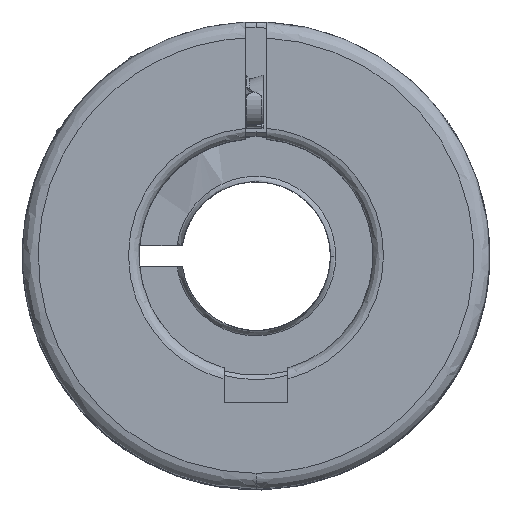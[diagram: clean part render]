
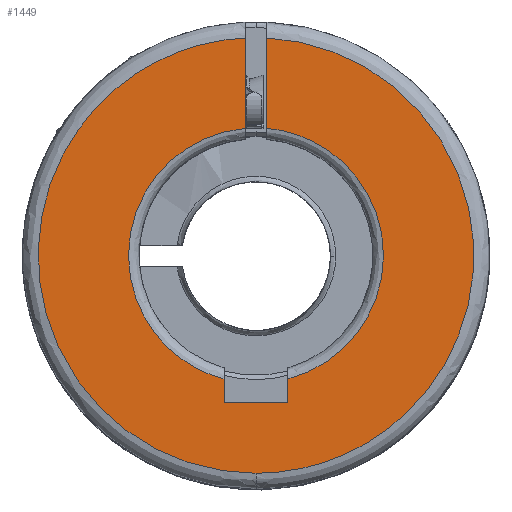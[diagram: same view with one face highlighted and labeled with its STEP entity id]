
A CAD part, top view. The second image highlights one B-rep face of the part: STEP entity #1449.
In plain terms, the highlighted planar face has unit normal (0, 0, 1).
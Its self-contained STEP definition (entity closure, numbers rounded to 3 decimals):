
#871 = VERTEX_POINT ( 'NONE', #10145 ) ;
#875 = VERTEX_POINT ( 'NONE', #10199 ) ;
#927 = EDGE_CURVE ( 'NONE', #928, #940, #10312, .T. ) ;
#928 = VERTEX_POINT ( 'NONE', #10286 ) ;
#935 = EDGE_CURVE ( 'NONE', #875, #871, #10326, .T. ) ;
#940 = VERTEX_POINT ( 'NONE', #10320 ) ;
#942 = EDGE_CURVE ( 'NONE', #940, #875, #10337, .T. ) ;
#1057 = EDGE_CURVE ( 'NONE', #871, #1058, #10668, .T. ) ;
#1058 = VERTEX_POINT ( 'NONE', #10664 ) ;
#1372 = ORIENTED_EDGE ( 'NONE', *, *, #1373, .F. ) ;
#1373 = EDGE_CURVE ( 'NONE', #1058, #1427, #11268, .T. ) ;
#1414 = ORIENTED_EDGE ( 'NONE', *, *, #1415, .F. ) ;
#1415 = EDGE_CURVE ( 'NONE', #1427, #2180, #11359, .T. ) ;
#1427 = VERTEX_POINT ( 'NONE', #11400 ) ;
#1428 = ORIENTED_EDGE ( 'NONE', *, *, #1057, .F. ) ;
#1429 = ORIENTED_EDGE ( 'NONE', *, *, #935, .F. ) ;
#1430 = ORIENTED_EDGE ( 'NONE', *, *, #942, .F. ) ;
#1431 = ORIENTED_EDGE ( 'NONE', *, *, #927, .F. ) ;
#1432 = ORIENTED_EDGE ( 'NONE', *, *, #1433, .F. ) ;
#1433 = EDGE_CURVE ( 'NONE', #1434, #928, #11423, .T. ) ;
#1434 = VERTEX_POINT ( 'NONE', #11458 ) ;
#1435 = ORIENTED_EDGE ( 'NONE', *, *, #1436, .F. ) ;
#1436 = EDGE_CURVE ( 'NONE', #1437, #1434, #11453, .T. ) ;
#1437 = VERTEX_POINT ( 'NONE', #11449 ) ;
#1438 = ORIENTED_EDGE ( 'NONE', *, *, #1439, .F. ) ;
#1439 = EDGE_CURVE ( 'NONE', #2180, #1437, #11448, .T. ) ;
#1449 = ADVANCED_FACE ( 'NONE', ( #11486 ), #11485, .F. ) ;
#1450 = EDGE_LOOP ( 'NONE', ( #1372, #1428, #1429, #1430, #1431, #1432, #1435, #1438, #1414 ) ) ;
#2180 = VERTEX_POINT ( 'NONE', #12823 ) ;
#10145 = CARTESIAN_POINT ( 'NONE',  ( -2.172, 24.15, 31.541 ) ) ;
#10199 = CARTESIAN_POINT ( 'NONE',  ( -1.172, -16.826, 31.541 ) ) ;
#10286 = CARTESIAN_POINT ( 'NONE',  ( -0.172, 15.632, 31.541 ) ) ;
#10287 = DIRECTION ( 'NONE',  ( 0., 1., 0. ) ) ;
#10288 = VECTOR ( 'NONE', #10287, 1000. ) ;
#10289 = CARTESIAN_POINT ( 'NONE',  ( -0.172, 3.674, 31.541 ) ) ;
#10312 = LINE ( 'NONE', #10289, #10288 ) ;
#10320 = CARTESIAN_POINT ( 'NONE',  ( -0.172, 24.15, 31.541 ) ) ;
#10322 = CARTESIAN_POINT ( 'NONE',  ( -2.172, 24.15, 31.541 ) ) ;
#10323 = CARTESIAN_POINT ( 'NONE',  ( -41.206, 22.243, 31.541 ) ) ;
#10324 = CARTESIAN_POINT ( 'NONE',  ( -40.252, -16.826, 31.541 ) ) ;
#10325 = CARTESIAN_POINT ( 'NONE',  ( -1.172, -16.826, 31.541 ) ) ;
#10326 =( BOUNDED_CURVE ( )  B_SPLINE_CURVE ( 3, ( #10325, #10324, #10323, #10322 ),
 .UNSPECIFIED., .F., .T. ) 
 B_SPLINE_CURVE_WITH_KNOTS ( ( 4, 4 ),
 ( 0., 1. ),
 .UNSPECIFIED. ) 
 CURVE ( )  GEOMETRIC_REPRESENTATION_ITEM ( )  RATIONAL_B_SPLINE_CURVE ( ( 1., 0.35, 0.35, 1. ) ) 
 REPRESENTATION_ITEM ( '' )  );
#10337 =( BOUNDED_CURVE ( )  B_SPLINE_CURVE ( 3, ( #10369, #10368, #10367, #10366 ),
 .UNSPECIFIED., .F., .T. ) 
 B_SPLINE_CURVE_WITH_KNOTS ( ( 4, 4 ),
 ( 0., 1. ),
 .UNSPECIFIED. ) 
 CURVE ( )  GEOMETRIC_REPRESENTATION_ITEM ( )  RATIONAL_B_SPLINE_CURVE ( ( 1., 0.35, 0.35, 1. ) ) 
 REPRESENTATION_ITEM ( '' )  );
#10366 = CARTESIAN_POINT ( 'NONE',  ( -1.172, -16.826, 31.541 ) ) ;
#10367 = CARTESIAN_POINT ( 'NONE',  ( 37.909, -16.826, 31.541 ) ) ;
#10368 = CARTESIAN_POINT ( 'NONE',  ( 38.863, 22.243, 31.541 ) ) ;
#10369 = CARTESIAN_POINT ( 'NONE',  ( -0.172, 24.15, 31.541 ) ) ;
#10664 = CARTESIAN_POINT ( 'NONE',  ( -2.172, 15.632, 31.541 ) ) ;
#10665 = DIRECTION ( 'NONE',  ( 0., -1., 0. ) ) ;
#10666 = VECTOR ( 'NONE', #10665, 1000. ) ;
#10667 = CARTESIAN_POINT ( 'NONE',  ( -2.172, 3.674, 31.541 ) ) ;
#10668 = LINE ( 'NONE', #10667, #10666 ) ;
#11268 =( BOUNDED_CURVE ( )  B_SPLINE_CURVE ( 3, ( #11296, #11295, #11294, #11293 ),
 .UNSPECIFIED., .F., .T. ) 
 B_SPLINE_CURVE_WITH_KNOTS ( ( 4, 4 ),
 ( 0., 1. ),
 .UNSPECIFIED. ) 
 CURVE ( )  GEOMETRIC_REPRESENTATION_ITEM ( )  RATIONAL_B_SPLINE_CURVE ( ( 1., 0.445, 0.445, 1. ) ) 
 REPRESENTATION_ITEM ( '' )  );
#11293 = CARTESIAN_POINT ( 'NONE',  ( -4.172, -7.945, 31.541 ) ) ;
#11294 = CARTESIAN_POINT ( 'NONE',  ( -21.339, -3.512, 31.541 ) ) ;
#11295 = CARTESIAN_POINT ( 'NONE',  ( -19.84, 14.155, 31.541 ) ) ;
#11296 = CARTESIAN_POINT ( 'NONE',  ( -2.172, 15.632, 31.541 ) ) ;
#11356 = DIRECTION ( 'NONE',  ( 0., -1., 0. ) ) ;
#11357 = VECTOR ( 'NONE', #11356, 1000. ) ;
#11358 = CARTESIAN_POINT ( 'NONE',  ( -4.172, 3.674, 31.541 ) ) ;
#11359 = LINE ( 'NONE', #11358, #11357 ) ;
#11400 = CARTESIAN_POINT ( 'NONE',  ( -4.172, -7.945, 31.541 ) ) ;
#11423 =( BOUNDED_CURVE ( )  B_SPLINE_CURVE ( 3, ( #11457, #11456, #11455, #11454 ),
 .UNSPECIFIED., .F., .F. ) 
 B_SPLINE_CURVE_WITH_KNOTS ( ( 4, 4 ),
 ( 0., 1. ),
 .UNSPECIFIED. ) 
 CURVE ( )  GEOMETRIC_REPRESENTATION_ITEM ( )  RATIONAL_B_SPLINE_CURVE ( ( 1., 0.445, 0.445, 1. ) ) 
 REPRESENTATION_ITEM ( '' )  );
#11445 = DIRECTION ( 'NONE',  ( 1., 0., 0. ) ) ;
#11446 = VECTOR ( 'NONE', #11445, 1000. ) ;
#11447 = CARTESIAN_POINT ( 'NONE',  ( -1.172, -10.126, 31.541 ) ) ;
#11448 = LINE ( 'NONE', #11447, #11446 ) ;
#11449 = CARTESIAN_POINT ( 'NONE',  ( 1.828, -10.126, 31.541 ) ) ;
#11450 = DIRECTION ( 'NONE',  ( 0., 1., 0. ) ) ;
#11451 = VECTOR ( 'NONE', #11450, 1000. ) ;
#11452 = CARTESIAN_POINT ( 'NONE',  ( 1.828, 3.674, 31.541 ) ) ;
#11453 = LINE ( 'NONE', #11452, #11451 ) ;
#11454 = CARTESIAN_POINT ( 'NONE',  ( -0.172, 15.632, 31.541 ) ) ;
#11455 = CARTESIAN_POINT ( 'NONE',  ( 17.497, 14.155, 31.541 ) ) ;
#11456 = CARTESIAN_POINT ( 'NONE',  ( 18.996, -3.512, 31.541 ) ) ;
#11457 = CARTESIAN_POINT ( 'NONE',  ( 1.828, -7.945, 31.541 ) ) ;
#11458 = CARTESIAN_POINT ( 'NONE',  ( 1.828, -7.945, 31.541 ) ) ;
#11481 = DIRECTION ( 'NONE',  ( 0., 1., 0. ) ) ;
#11482 = DIRECTION ( 'NONE',  ( 0., 0., -1. ) ) ;
#11483 = CARTESIAN_POINT ( 'NONE',  ( -1.172, 3.674, 31.541 ) ) ;
#11484 = AXIS2_PLACEMENT_3D ( 'NONE', #11483, #11482, #11481 ) ;
#11485 = PLANE ( 'NONE',  #11484 ) ;
#11486 = FACE_OUTER_BOUND ( 'NONE', #1450, .T. ) ;
#12823 = CARTESIAN_POINT ( 'NONE',  ( -4.172, -10.126, 31.541 ) ) ;
